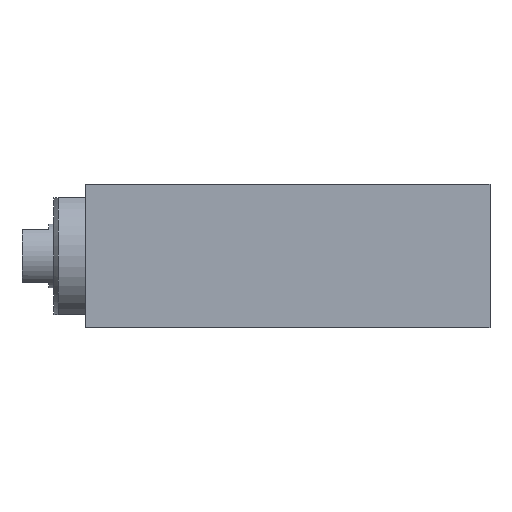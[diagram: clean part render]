
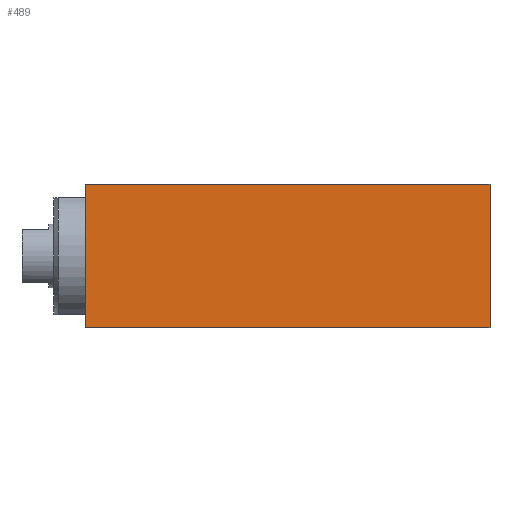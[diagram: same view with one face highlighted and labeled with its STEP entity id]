
A CAD part, front view. The second image highlights one B-rep face of the part: STEP entity #489.
In plain terms, the highlighted planar face has unit normal (0, -1, 0).
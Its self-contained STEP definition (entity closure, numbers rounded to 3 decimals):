
#58 = VERTEX_POINT ( 'NONE', #1910 ) ;
#388 = EDGE_LOOP ( 'NONE', ( #1364, #2250, #2111, #631 ) ) ;
#457 = LINE ( 'NONE', #2746, #1755 ) ;
#486 = LINE ( 'NONE', #2838, #2977 ) ;
#489 = ADVANCED_FACE ( 'NONE', ( #1779 ), #2005, .T. ) ;
#584 = EDGE_CURVE ( 'NONE', #1865, #58, #1871, .T. ) ;
#631 = ORIENTED_EDGE ( 'NONE', *, *, #2421, .T. ) ;
#651 = DIRECTION ( 'NONE',  ( 0., 0., 1. ) ) ;
#1117 = CARTESIAN_POINT ( 'NONE',  ( 0., -11.5, -6.75 ) ) ;
#1161 = VERTEX_POINT ( 'NONE', #2004 ) ;
#1216 = AXIS2_PLACEMENT_3D ( 'NONE', #2929, #1987, #2911 ) ;
#1313 = EDGE_CURVE ( 'NONE', #1865, #2457, #486, .T. ) ;
#1317 = DIRECTION ( 'NONE',  ( 0., 0., 1. ) ) ;
#1364 = ORIENTED_EDGE ( 'NONE', *, *, #2373, .F. ) ;
#1482 = DIRECTION ( 'NONE',  ( -1., 0., 0. ) ) ;
#1650 = VECTOR ( 'NONE', #651, 1000. ) ;
#1755 = VECTOR ( 'NONE', #2992, 1000. ) ;
#1779 = FACE_OUTER_BOUND ( 'NONE', #388, .T. ) ;
#1797 = LINE ( 'NONE', #2947, #2823 ) ;
#1865 = VERTEX_POINT ( 'NONE', #2450 ) ;
#1871 = LINE ( 'NONE', #2342, #1650 ) ;
#1910 = CARTESIAN_POINT ( 'NONE',  ( 38., -11.5, 6.75 ) ) ;
#1987 = DIRECTION ( 'NONE',  ( 0., -1., 0. ) ) ;
#2004 = CARTESIAN_POINT ( 'NONE',  ( 0., -11.5, 6.75 ) ) ;
#2005 = PLANE ( 'NONE',  #1216 ) ;
#2111 = ORIENTED_EDGE ( 'NONE', *, *, #584, .T. ) ;
#2250 = ORIENTED_EDGE ( 'NONE', *, *, #1313, .F. ) ;
#2342 = CARTESIAN_POINT ( 'NONE',  ( 38., -11.5, -6.75 ) ) ;
#2373 = EDGE_CURVE ( 'NONE', #2457, #1161, #1797, .T. ) ;
#2421 = EDGE_CURVE ( 'NONE', #58, #1161, #457, .T. ) ;
#2450 = CARTESIAN_POINT ( 'NONE',  ( 38., -11.5, -6.75 ) ) ;
#2457 = VERTEX_POINT ( 'NONE', #1117 ) ;
#2746 = CARTESIAN_POINT ( 'NONE',  ( 38., -11.5, 6.75 ) ) ;
#2823 = VECTOR ( 'NONE', #1317, 1000. ) ;
#2838 = CARTESIAN_POINT ( 'NONE',  ( 38., -11.5, -6.75 ) ) ;
#2911 = DIRECTION ( 'NONE',  ( 1., 0., 0. ) ) ;
#2929 = CARTESIAN_POINT ( 'NONE',  ( 38., -11.5, -6.75 ) ) ;
#2947 = CARTESIAN_POINT ( 'NONE',  ( 0., -11.5, -6.75 ) ) ;
#2977 = VECTOR ( 'NONE', #1482, 1000. ) ;
#2992 = DIRECTION ( 'NONE',  ( -1., 0., 0. ) ) ;
